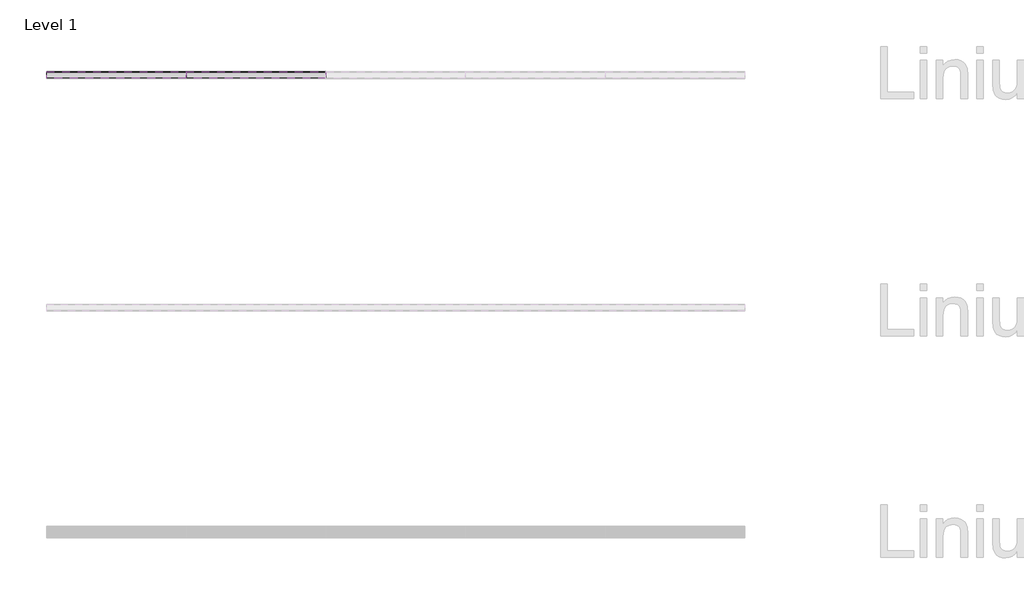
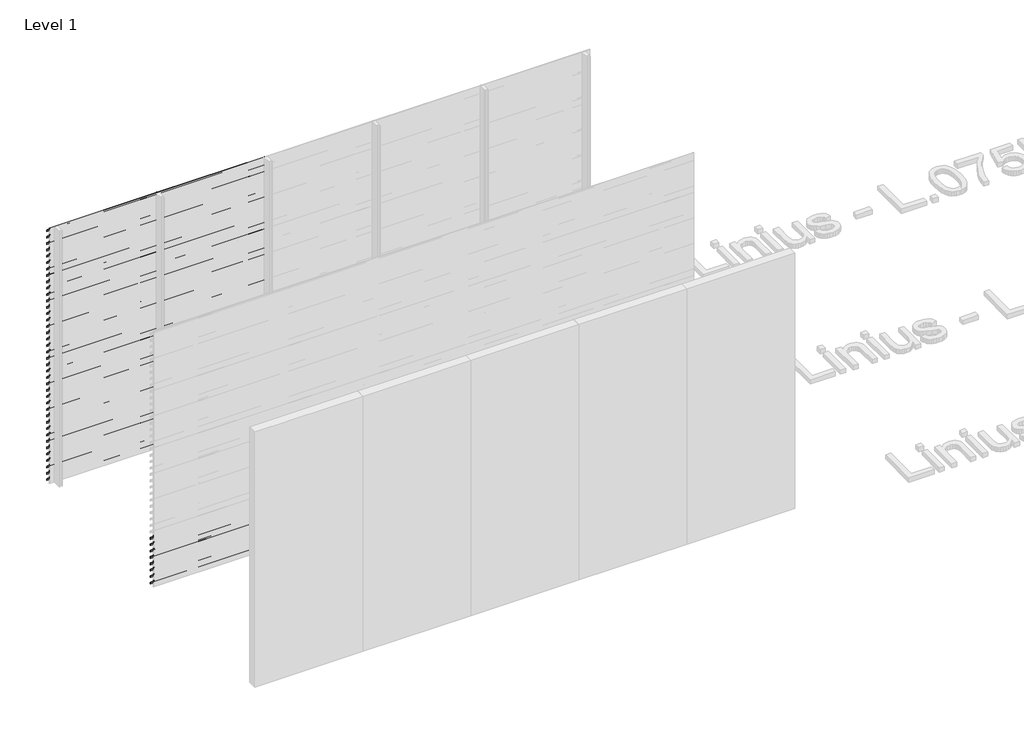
# One storey, part 37 of 55: 85 proxies.
"""IFC4 building model written with IfcOpenShell, lengths in millimetres."""

from ifc_helpers import new_model, si_unit, frame, origin, place, context, project, spatial, polyline, outline, extrude, element, save

model = new_model("IFC4")

# Units and contexts
model_context = context("Model", 3, world=origin())
ifc_project = project(units=[si_unit("LENGTHUNIT", "METRE", prefix="MILLI")], contexts=[model_context])

# Site, building, storey
site = spatial("IfcSite", under=ifc_project)
building = spatial("IfcBuilding", under=site)
storey = spatial("IfcBuildingStorey", under=building, Name="Level 1", Elevation=0.0)

# Proxies
placement = place(None, origin())
element("IfcBuildingElementProxy", 1, Name="Wall Sweeps", at=placement, inside=storey, context=model_context, shape_type="SweptSolid", body=[
    extrude(outline(polyline([(51581.0540136, 2943.5), (51581.0540136, 2923.5), (51579.8040136, 2924.2216933), (51579.8040136, 2942.7872415), (51526.0540136, 2980.3158044), (51526.0540136, 3000.0), (51527.3040136, 3000.0), (51527.3040136, 2981.0285629), (51581.0540136, 2943.5)])), frame((466.6208097, 0.0, 0.0), z_axis=(1.0, 0.0, 0.0), x_axis=(0.0, 1.0, 0.0)), (0.0, 0.0, 1.0), 1200.0000002),
])
element("IfcBuildingElementProxy", 2, Name="Wall Sweeps", at=placement, inside=storey, context=model_context, shape_type="SweptSolid", body=[
    extrude(outline(polyline([(51581.0540136, 2868.5), (51581.0540136, 2848.5), (51579.8040136, 2849.2216933), (51579.8040136, 2867.7872415), (51526.0540136, 2905.3158044), (51526.0540136, 2925.0), (51527.3040136, 2925.0), (51527.3040136, 2906.0285629), (51581.0540136, 2868.5)])), frame((466.6208097, 0.0, 0.0), z_axis=(1.0, 0.0, 0.0), x_axis=(0.0, 1.0, 0.0)), (0.0, 0.0, 1.0), 1200.0000002),
])
element("IfcBuildingElementProxy", 3, Name="Wall Sweeps", at=placement, inside=storey, context=model_context, shape_type="SweptSolid", body=[
    extrude(outline(polyline([(51581.0540136, 2793.5), (51581.0540136, 2773.5), (51579.8040136, 2774.2216933), (51579.8040136, 2792.7872415), (51526.0540136, 2830.3158044), (51526.0540136, 2850.0), (51527.3040136, 2850.0), (51527.3040136, 2831.0285629), (51581.0540136, 2793.5)])), frame((466.6208097, 0.0, 0.0), z_axis=(1.0, 0.0, 0.0), x_axis=(0.0, 1.0, 0.0)), (0.0, 0.0, 1.0), 1200.0000002),
])
element("IfcBuildingElementProxy", 4, Name="Wall Sweeps", at=placement, inside=storey, context=model_context, shape_type="SweptSolid", body=[
    extrude(outline(polyline([(51581.0540136, 2718.5), (51581.0540136, 2698.5), (51579.8040136, 2699.2216933), (51579.8040136, 2717.7872415), (51526.0540136, 2755.3158044), (51526.0540136, 2775.0), (51527.3040136, 2775.0), (51527.3040136, 2756.0285629), (51581.0540136, 2718.5)])), frame((466.6208097, 0.0, 0.0), z_axis=(1.0, 0.0, 0.0), x_axis=(0.0, 1.0, 0.0)), (0.0, 0.0, 1.0), 1200.0000002),
])
element("IfcBuildingElementProxy", 5, Name="Wall Sweeps", at=placement, inside=storey, context=model_context, shape_type="SweptSolid", body=[
    extrude(outline(polyline([(51581.0540136, 2643.5), (51581.0540136, 2623.5), (51579.8040136, 2624.2216933), (51579.8040136, 2642.7872415), (51526.0540136, 2680.3158044), (51526.0540136, 2700.0), (51527.3040136, 2700.0), (51527.3040136, 2681.0285629), (51581.0540136, 2643.5)])), frame((466.6208097, 0.0, 0.0), z_axis=(1.0, 0.0, 0.0), x_axis=(0.0, 1.0, 0.0)), (0.0, 0.0, 1.0), 1200.0000002),
])
element("IfcBuildingElementProxy", 6, Name="Wall Sweeps", at=placement, inside=storey, context=model_context, shape_type="SweptSolid", body=[
    extrude(outline(polyline([(51581.0540136, 2568.5), (51581.0540136, 2548.5), (51579.8040136, 2549.2216933), (51579.8040136, 2567.7872415), (51526.0540136, 2605.3158044), (51526.0540136, 2625.0), (51527.3040136, 2625.0), (51527.3040136, 2606.0285629), (51581.0540136, 2568.5)])), frame((466.6208097, 0.0, 0.0), z_axis=(1.0, 0.0, 0.0), x_axis=(0.0, 1.0, 0.0)), (0.0, 0.0, 1.0), 1200.0000002),
])
element("IfcBuildingElementProxy", 7, Name="Wall Sweeps", at=placement, inside=storey, context=model_context, shape_type="SweptSolid", body=[
    extrude(outline(polyline([(51581.0540136, 2493.5), (51581.0540136, 2473.5), (51579.8040136, 2474.2216933), (51579.8040136, 2492.7872415), (51526.0540136, 2530.3158044), (51526.0540136, 2550.0), (51527.3040136, 2550.0), (51527.3040136, 2531.0285629), (51581.0540136, 2493.5)])), frame((466.6208097, 0.0, 0.0), z_axis=(1.0, 0.0, 0.0), x_axis=(0.0, 1.0, 0.0)), (0.0, 0.0, 1.0), 1200.0000002),
])
element("IfcBuildingElementProxy", 8, Name="Wall Sweeps", at=placement, inside=storey, context=model_context, shape_type="SweptSolid", body=[
    extrude(outline(polyline([(51581.0540136, 2418.5), (51581.0540136, 2398.5), (51579.8040136, 2399.2216933), (51579.8040136, 2417.7872415), (51526.0540136, 2455.3158044), (51526.0540136, 2475.0), (51527.3040136, 2475.0), (51527.3040136, 2456.0285629), (51581.0540136, 2418.5)])), frame((466.6208097, 0.0, 0.0), z_axis=(1.0, 0.0, 0.0), x_axis=(0.0, 1.0, 0.0)), (0.0, 0.0, 1.0), 1200.0000002),
])
element("IfcBuildingElementProxy", 9, Name="Wall Sweeps", at=placement, inside=storey, context=model_context, shape_type="SweptSolid", body=[
    extrude(outline(polyline([(51581.0540136, 2343.5), (51581.0540136, 2323.5), (51579.8040136, 2324.2216933), (51579.8040136, 2342.7872415), (51526.0540136, 2380.3158044), (51526.0540136, 2400.0), (51527.3040136, 2400.0), (51527.3040136, 2381.0285629), (51581.0540136, 2343.5)])), frame((466.6208097, 0.0, 0.0), z_axis=(1.0, 0.0, 0.0), x_axis=(0.0, 1.0, 0.0)), (0.0, 0.0, 1.0), 1200.0000002),
])
element("IfcBuildingElementProxy", 10, Name="Wall Sweeps", at=placement, inside=storey, context=model_context, shape_type="SweptSolid", body=[
    extrude(outline(polyline([(51581.0540136, 2268.5), (51581.0540136, 2248.5), (51579.8040136, 2249.2216933), (51579.8040136, 2267.7872415), (51526.0540136, 2305.3158044), (51526.0540136, 2325.0), (51527.3040136, 2325.0), (51527.3040136, 2306.0285629), (51581.0540136, 2268.5)])), frame((466.6208097, 0.0, 0.0), z_axis=(1.0, 0.0, 0.0), x_axis=(0.0, 1.0, 0.0)), (0.0, 0.0, 1.0), 1200.0000002),
])
element("IfcBuildingElementProxy", 11, Name="Wall Sweeps", at=placement, inside=storey, context=model_context, shape_type="SweptSolid", body=[
    extrude(outline(polyline([(51581.0540136, 2193.5), (51581.0540136, 2173.5), (51579.8040136, 2174.2216933), (51579.8040136, 2192.7872415), (51526.0540136, 2230.3158044), (51526.0540136, 2250.0), (51527.3040136, 2250.0), (51527.3040136, 2231.0285629), (51581.0540136, 2193.5)])), frame((466.6208097, 0.0, 0.0), z_axis=(1.0, 0.0, 0.0), x_axis=(0.0, 1.0, 0.0)), (0.0, 0.0, 1.0), 1200.0000002),
])
element("IfcBuildingElementProxy", 12, Name="Wall Sweeps", at=placement, inside=storey, context=model_context, shape_type="SweptSolid", body=[
    extrude(outline(polyline([(51581.0540136, 2118.5), (51581.0540136, 2098.5), (51579.8040136, 2099.2216933), (51579.8040136, 2117.7872415), (51526.0540136, 2155.3158044), (51526.0540136, 2175.0), (51527.3040136, 2175.0), (51527.3040136, 2156.0285629), (51581.0540136, 2118.5)])), frame((466.6208097, 0.0, 0.0), z_axis=(1.0, 0.0, 0.0), x_axis=(0.0, 1.0, 0.0)), (0.0, 0.0, 1.0), 1200.0000002),
])
element("IfcBuildingElementProxy", 13, Name="Wall Sweeps", at=placement, inside=storey, context=model_context, shape_type="SweptSolid", body=[
    extrude(outline(polyline([(51581.0540136, 2043.5), (51581.0540136, 2023.5), (51579.8040136, 2024.2216933), (51579.8040136, 2042.7872415), (51526.0540136, 2080.3158044), (51526.0540136, 2100.0), (51527.3040136, 2100.0), (51527.3040136, 2081.0285629), (51581.0540136, 2043.5)])), frame((466.6208097, 0.0, 0.0), z_axis=(1.0, 0.0, 0.0), x_axis=(0.0, 1.0, 0.0)), (0.0, 0.0, 1.0), 1200.0000002),
])
element("IfcBuildingElementProxy", 14, Name="Wall Sweeps", at=placement, inside=storey, context=model_context, shape_type="SweptSolid", body=[
    extrude(outline(polyline([(51581.0540136, 1968.5), (51581.0540136, 1948.5), (51579.8040136, 1949.2216933), (51579.8040136, 1967.7872415), (51526.0540136, 2005.3158044), (51526.0540136, 2025.0), (51527.3040136, 2025.0), (51527.3040136, 2006.0285629), (51581.0540136, 1968.5)])), frame((466.6208097, 0.0, 0.0), z_axis=(1.0, 0.0, 0.0), x_axis=(0.0, 1.0, 0.0)), (0.0, 0.0, 1.0), 1200.0000002),
])
element("IfcBuildingElementProxy", 15, Name="Wall Sweeps", at=placement, inside=storey, context=model_context, shape_type="SweptSolid", body=[
    extrude(outline(polyline([(51581.0540136, 1893.5), (51581.0540136, 1873.5), (51579.8040136, 1874.2216933), (51579.8040136, 1892.7872415), (51526.0540136, 1930.3158044), (51526.0540136, 1950.0), (51527.3040136, 1950.0), (51527.3040136, 1931.0285629), (51581.0540136, 1893.5)])), frame((466.6208097, 0.0, 0.0), z_axis=(1.0, 0.0, 0.0), x_axis=(0.0, 1.0, 0.0)), (0.0, 0.0, 1.0), 1200.0000002),
])
element("IfcBuildingElementProxy", 16, Name="Wall Sweeps", at=placement, inside=storey, context=model_context, shape_type="SweptSolid", body=[
    extrude(outline(polyline([(51581.0540136, 1818.5), (51581.0540136, 1798.5), (51579.8040136, 1799.2216933), (51579.8040136, 1817.7872415), (51526.0540136, 1855.3158044), (51526.0540136, 1875.0), (51527.3040136, 1875.0), (51527.3040136, 1856.0285629), (51581.0540136, 1818.5)])), frame((466.6208097, 0.0, 0.0), z_axis=(1.0, 0.0, 0.0), x_axis=(0.0, 1.0, 0.0)), (0.0, 0.0, 1.0), 1200.0000002),
])
element("IfcBuildingElementProxy", 17, Name="Wall Sweeps", at=placement, inside=storey, context=model_context, shape_type="SweptSolid", body=[
    extrude(outline(polyline([(51581.0540136, 1743.5), (51581.0540136, 1723.5), (51579.8040136, 1724.2216933), (51579.8040136, 1742.7872415), (51526.0540136, 1780.3158044), (51526.0540136, 1800.0), (51527.3040136, 1800.0), (51527.3040136, 1781.0285629), (51581.0540136, 1743.5)])), frame((466.6208097, 0.0, 0.0), z_axis=(1.0, 0.0, 0.0), x_axis=(0.0, 1.0, 0.0)), (0.0, 0.0, 1.0), 1200.0000002),
])
element("IfcBuildingElementProxy", 18, Name="Wall Sweeps", at=placement, inside=storey, context=model_context, shape_type="SweptSolid", body=[
    extrude(outline(polyline([(51581.0540136, 1668.5), (51581.0540136, 1648.5), (51579.8040136, 1649.2216933), (51579.8040136, 1667.7872415), (51526.0540136, 1705.3158044), (51526.0540136, 1725.0), (51527.3040136, 1725.0), (51527.3040136, 1706.0285629), (51581.0540136, 1668.5)])), frame((466.6208097, 0.0, 0.0), z_axis=(1.0, 0.0, 0.0), x_axis=(0.0, 1.0, 0.0)), (0.0, 0.0, 1.0), 1200.0000002),
])
element("IfcBuildingElementProxy", 19, Name="Wall Sweeps", at=placement, inside=storey, context=model_context, shape_type="SweptSolid", body=[
    extrude(outline(polyline([(51581.0540136, 1593.5), (51581.0540136, 1573.5), (51579.8040136, 1574.2216933), (51579.8040136, 1592.7872415), (51526.0540136, 1630.3158044), (51526.0540136, 1650.0), (51527.3040136, 1650.0), (51527.3040136, 1631.0285629), (51581.0540136, 1593.5)])), frame((466.6208097, 0.0, 0.0), z_axis=(1.0, 0.0, 0.0), x_axis=(0.0, 1.0, 0.0)), (0.0, 0.0, 1.0), 1200.0000002),
])
element("IfcBuildingElementProxy", 20, Name="Wall Sweeps", at=placement, inside=storey, context=model_context, shape_type="SweptSolid", body=[
    extrude(outline(polyline([(51581.0540136, 1518.5), (51581.0540136, 1498.5), (51579.8040136, 1499.2216933), (51579.8040136, 1517.7872415), (51526.0540136, 1555.3158044), (51526.0540136, 1575.0), (51527.3040136, 1575.0), (51527.3040136, 1556.0285629), (51581.0540136, 1518.5)])), frame((466.6208097, 0.0, 0.0), z_axis=(1.0, 0.0, 0.0), x_axis=(0.0, 1.0, 0.0)), (0.0, 0.0, 1.0), 1200.0000002),
])
element("IfcBuildingElementProxy", 21, Name="Wall Sweeps", at=placement, inside=storey, context=model_context, shape_type="SweptSolid", body=[
    extrude(outline(polyline([(51581.0540136, 1443.5), (51581.0540136, 1423.5), (51579.8040136, 1424.2216933), (51579.8040136, 1442.7872415), (51526.0540136, 1480.3158044), (51526.0540136, 1500.0), (51527.3040136, 1500.0), (51527.3040136, 1481.0285629), (51581.0540136, 1443.5)])), frame((466.6208097, 0.0, 0.0), z_axis=(1.0, 0.0, 0.0), x_axis=(0.0, 1.0, 0.0)), (0.0, 0.0, 1.0), 1200.0000002),
])
element("IfcBuildingElementProxy", 22, Name="Wall Sweeps", at=placement, inside=storey, context=model_context, shape_type="SweptSolid", body=[
    extrude(outline(polyline([(51581.0540136, 1368.5), (51581.0540136, 1348.5), (51579.8040136, 1349.2216933), (51579.8040136, 1367.7872415), (51526.0540136, 1405.3158044), (51526.0540136, 1425.0), (51527.3040136, 1425.0), (51527.3040136, 1406.0285629), (51581.0540136, 1368.5)])), frame((466.6208097, 0.0, 0.0), z_axis=(1.0, 0.0, 0.0), x_axis=(0.0, 1.0, 0.0)), (0.0, 0.0, 1.0), 1200.0000002),
])
element("IfcBuildingElementProxy", 23, Name="Wall Sweeps", at=placement, inside=storey, context=model_context, shape_type="SweptSolid", body=[
    extrude(outline(polyline([(51581.0540136, 1293.5), (51581.0540136, 1273.5), (51579.8040136, 1274.2216933), (51579.8040136, 1292.7872415), (51526.0540136, 1330.3158044), (51526.0540136, 1350.0), (51527.3040136, 1350.0), (51527.3040136, 1331.0285629), (51581.0540136, 1293.5)])), frame((466.6208097, 0.0, 0.0), z_axis=(1.0, 0.0, 0.0), x_axis=(0.0, 1.0, 0.0)), (0.0, 0.0, 1.0), 1200.0000002),
])
element("IfcBuildingElementProxy", 24, Name="Wall Sweeps", at=placement, inside=storey, context=model_context, shape_type="SweptSolid", body=[
    extrude(outline(polyline([(51581.0540136, 1218.5), (51581.0540136, 1198.5), (51579.8040136, 1199.2216933), (51579.8040136, 1217.7872415), (51526.0540136, 1255.3158044), (51526.0540136, 1275.0), (51527.3040136, 1275.0), (51527.3040136, 1256.0285629), (51581.0540136, 1218.5)])), frame((466.6208097, 0.0, 0.0), z_axis=(1.0, 0.0, 0.0), x_axis=(0.0, 1.0, 0.0)), (0.0, 0.0, 1.0), 1200.0000002),
])
element("IfcBuildingElementProxy", 25, Name="Wall Sweeps", at=placement, inside=storey, context=model_context, shape_type="SweptSolid", body=[
    extrude(outline(polyline([(51581.0540136, 1143.5), (51581.0540136, 1123.5), (51579.8040136, 1124.2216933), (51579.8040136, 1142.7872415), (51526.0540136, 1180.3158044), (51526.0540136, 1200.0), (51527.3040136, 1200.0), (51527.3040136, 1181.0285629), (51581.0540136, 1143.5)])), frame((466.6208097, 0.0, 0.0), z_axis=(1.0, 0.0, 0.0), x_axis=(0.0, 1.0, 0.0)), (0.0, 0.0, 1.0), 1200.0000002),
])
element("IfcBuildingElementProxy", 26, Name="Wall Sweeps", at=placement, inside=storey, context=model_context, shape_type="SweptSolid", body=[
    extrude(outline(polyline([(51581.0540136, 1068.5), (51581.0540136, 1048.5), (51579.8040136, 1049.2216933), (51579.8040136, 1067.7872415), (51526.0540136, 1105.3158044), (51526.0540136, 1125.0), (51527.3040136, 1125.0), (51527.3040136, 1106.0285629), (51581.0540136, 1068.5)])), frame((466.6208097, 0.0, 0.0), z_axis=(1.0, 0.0, 0.0), x_axis=(0.0, 1.0, 0.0)), (0.0, 0.0, 1.0), 1200.0000002),
])
element("IfcBuildingElementProxy", 27, Name="Wall Sweeps", at=placement, inside=storey, context=model_context, shape_type="SweptSolid", body=[
    extrude(outline(polyline([(51581.0540136, 993.5), (51581.0540136, 973.5), (51579.8040136, 974.2216933), (51579.8040136, 992.7872415), (51526.0540136, 1030.3158044), (51526.0540136, 1050.0), (51527.3040136, 1050.0), (51527.3040136, 1031.0285629), (51581.0540136, 993.5)])), frame((466.6208097, 0.0, 0.0), z_axis=(1.0, 0.0, 0.0), x_axis=(0.0, 1.0, 0.0)), (0.0, 0.0, 1.0), 1200.0000002),
])
element("IfcBuildingElementProxy", 28, Name="Wall Sweeps", at=placement, inside=storey, context=model_context, shape_type="SweptSolid", body=[
    extrude(outline(polyline([(51581.0540136, 918.5), (51581.0540136, 898.5), (51579.8040136, 899.2216933), (51579.8040136, 917.7872415), (51526.0540136, 955.3158044), (51526.0540136, 975.0), (51527.3040136, 975.0), (51527.3040136, 956.0285629), (51581.0540136, 918.5)])), frame((466.6208097, 0.0, 0.0), z_axis=(1.0, 0.0, 0.0), x_axis=(0.0, 1.0, 0.0)), (0.0, 0.0, 1.0), 1200.0000002),
])
element("IfcBuildingElementProxy", 29, Name="Wall Sweeps", at=placement, inside=storey, context=model_context, shape_type="SweptSolid", body=[
    extrude(outline(polyline([(51581.0540136, 843.5), (51581.0540136, 823.5), (51579.8040136, 824.2216933), (51579.8040136, 842.7872415), (51526.0540136, 880.3158044), (51526.0540136, 900.0), (51527.3040136, 900.0), (51527.3040136, 881.0285629), (51581.0540136, 843.5)])), frame((466.6208097, 0.0, 0.0), z_axis=(1.0, 0.0, 0.0), x_axis=(0.0, 1.0, 0.0)), (0.0, 0.0, 1.0), 1200.0000002),
])
element("IfcBuildingElementProxy", 30, Name="Wall Sweeps", at=placement, inside=storey, context=model_context, shape_type="SweptSolid", body=[
    extrude(outline(polyline([(51581.0540136, 768.5), (51581.0540136, 748.5), (51579.8040136, 749.2216933), (51579.8040136, 767.7872415), (51526.0540136, 805.3158044), (51526.0540136, 825.0), (51527.3040136, 825.0), (51527.3040136, 806.0285629), (51581.0540136, 768.5)])), frame((466.6208097, 0.0, 0.0), z_axis=(1.0, 0.0, 0.0), x_axis=(0.0, 1.0, 0.0)), (0.0, 0.0, 1.0), 1200.0000002),
])
element("IfcBuildingElementProxy", 31, Name="Wall Sweeps", at=placement, inside=storey, context=model_context, shape_type="SweptSolid", body=[
    extrude(outline(polyline([(51581.0540136, 693.5), (51581.0540136, 673.5), (51579.8040136, 674.2216933), (51579.8040136, 692.7872415), (51526.0540136, 730.3158044), (51526.0540136, 750.0), (51527.3040136, 750.0), (51527.3040136, 731.0285629), (51581.0540136, 693.5)])), frame((466.6208097, 0.0, 0.0), z_axis=(1.0, 0.0, 0.0), x_axis=(0.0, 1.0, 0.0)), (0.0, 0.0, 1.0), 1200.0000002),
])
element("IfcBuildingElementProxy", 32, Name="Wall Sweeps", at=placement, inside=storey, context=model_context, shape_type="SweptSolid", body=[
    extrude(outline(polyline([(51581.0540136, 618.5), (51581.0540136, 598.5), (51579.8040136, 599.2216933), (51579.8040136, 617.7872415), (51526.0540136, 655.3158044), (51526.0540136, 675.0), (51527.3040136, 675.0), (51527.3040136, 656.0285629), (51581.0540136, 618.5)])), frame((466.6208097, 0.0, 0.0), z_axis=(1.0, 0.0, 0.0), x_axis=(0.0, 1.0, 0.0)), (0.0, 0.0, 1.0), 1200.0000002),
])
element("IfcBuildingElementProxy", 33, Name="Wall Sweeps", at=placement, inside=storey, context=model_context, shape_type="SweptSolid", body=[
    extrude(outline(polyline([(51581.0540136, 543.5), (51581.0540136, 523.5), (51579.8040136, 524.2216933), (51579.8040136, 542.7872415), (51526.0540136, 580.3158044), (51526.0540136, 600.0), (51527.3040136, 600.0), (51527.3040136, 581.0285629), (51581.0540136, 543.5)])), frame((466.6208097, 0.0, 0.0), z_axis=(1.0, 0.0, 0.0), x_axis=(0.0, 1.0, 0.0)), (0.0, 0.0, 1.0), 1200.0000002),
])
element("IfcBuildingElementProxy", 34, Name="Wall Sweeps", at=placement, inside=storey, context=model_context, shape_type="SweptSolid", body=[
    extrude(outline(polyline([(51581.0540136, 468.5), (51581.0540136, 448.5), (51579.8040136, 449.2216933), (51579.8040136, 467.7872415), (51526.0540136, 505.3158044), (51526.0540136, 525.0), (51527.3040136, 525.0), (51527.3040136, 506.0285629), (51581.0540136, 468.5)])), frame((466.6208097, 0.0, 0.0), z_axis=(1.0, 0.0, 0.0), x_axis=(0.0, 1.0, 0.0)), (0.0, 0.0, 1.0), 1200.0000002),
])
element("IfcBuildingElementProxy", 35, Name="Wall Sweeps", at=placement, inside=storey, context=model_context, shape_type="SweptSolid", body=[
    extrude(outline(polyline([(51581.0540136, 393.5), (51581.0540136, 373.5), (51579.8040136, 374.2216933), (51579.8040136, 392.7872415), (51526.0540136, 430.3158044), (51526.0540136, 450.0), (51527.3040136, 450.0), (51527.3040136, 431.0285629), (51581.0540136, 393.5)])), frame((466.6208097, 0.0, 0.0), z_axis=(1.0, 0.0, 0.0), x_axis=(0.0, 1.0, 0.0)), (0.0, 0.0, 1.0), 1200.0000002),
])
element("IfcBuildingElementProxy", 36, Name="Wall Sweeps", at=placement, inside=storey, context=model_context, shape_type="SweptSolid", body=[
    extrude(outline(polyline([(51581.0540136, 318.5), (51581.0540136, 298.5), (51579.8040136, 299.2216933), (51579.8040136, 317.7872415), (51526.0540136, 355.3158044), (51526.0540136, 375.0), (51527.3040136, 375.0), (51527.3040136, 356.0285629), (51581.0540136, 318.5)])), frame((466.6208097, 0.0, 0.0), z_axis=(1.0, 0.0, 0.0), x_axis=(0.0, 1.0, 0.0)), (0.0, 0.0, 1.0), 1200.0000002),
])
element("IfcBuildingElementProxy", 37, Name="Wall Sweeps", at=placement, inside=storey, context=model_context, shape_type="SweptSolid", body=[
    extrude(outline(polyline([(51581.0540136, 243.5), (51581.0540136, 223.5), (51579.8040136, 224.2216933), (51579.8040136, 242.7872415), (51526.0540136, 280.3158044), (51526.0540136, 300.0), (51527.3040136, 300.0), (51527.3040136, 281.0285629), (51581.0540136, 243.5)])), frame((466.6208097, 0.0, 0.0), z_axis=(1.0, 0.0, 0.0), x_axis=(0.0, 1.0, 0.0)), (0.0, 0.0, 1.0), 1200.0000002),
])
element("IfcBuildingElementProxy", 38, Name="Wall Sweeps", at=placement, inside=storey, context=model_context, shape_type="SweptSolid", body=[
    extrude(outline(polyline([(51581.0540136, 168.5), (51581.0540136, 148.5), (51579.8040136, 149.2216933), (51579.8040136, 167.7872415), (51526.0540136, 205.3158044), (51526.0540136, 225.0), (51527.3040136, 225.0), (51527.3040136, 206.0285629), (51581.0540136, 168.5)])), frame((466.6208097, 0.0, 0.0), z_axis=(1.0, 0.0, 0.0), x_axis=(0.0, 1.0, 0.0)), (0.0, 0.0, 1.0), 1200.0000002),
])
element("IfcBuildingElementProxy", 39, Name="Wall Sweeps", at=placement, inside=storey, context=model_context, shape_type="SweptSolid", body=[
    extrude(outline(polyline([(51581.0540136, 93.5), (51581.0540136, 73.5), (51579.8040136, 74.2216933), (51579.8040136, 92.7872415), (51526.0540136, 130.3158044), (51526.0540136, 150.0), (51527.3040136, 150.0), (51527.3040136, 131.0285629), (51581.0540136, 93.5)])), frame((466.6208097, 0.0, 0.0), z_axis=(1.0, 0.0, 0.0), x_axis=(0.0, 1.0, 0.0)), (0.0, 0.0, 1.0), 1200.0000002),
])
element("IfcBuildingElementProxy", 40, Name="Wall Sweeps", at=placement, inside=storey, context=model_context, shape_type="SweptSolid", body=[
    extrude(outline(polyline([(51581.0540136, 18.5), (51581.0540136, -1.5), (51579.8040136, -0.7783067), (51579.8040136, 17.7872415), (51526.0540136, 55.3158044), (51526.0540136, 75.0), (51527.3040136, 75.0), (51527.3040136, 56.0285629), (51581.0540136, 18.5)])), frame((466.6208097, 0.0, 0.0), z_axis=(1.0, 0.0, 0.0), x_axis=(0.0, 1.0, 0.0)), (0.0, 0.0, 1.0), 1200.0000002),
])
element("IfcBuildingElementProxy", 41, Name="Wall Sweeps", at=placement, inside=storey, context=model_context, shape_type="SweptSolid", body=[
    extrude(outline(polyline([(51581.0540136, 2943.5), (51581.0540136, 2923.5), (51579.8040136, 2924.2216933), (51579.8040136, 2942.7872415), (51526.0540136, 2980.3158044), (51526.0540136, 3000.0), (51527.3040136, 3000.0), (51527.3040136, 2981.0285629), (51581.0540136, 2943.5)])), frame((1666.6208099, 0.0, 0.0), z_axis=(1.0, 0.0, 0.0), x_axis=(0.0, 1.0, 0.0)), (0.0, 0.0, 1.0), 1199.9999999),
])
element("IfcBuildingElementProxy", 42, Name="Wall Sweeps", at=placement, inside=storey, context=model_context, shape_type="SweptSolid", body=[
    extrude(outline(polyline([(51581.0540136, 2868.5), (51581.0540136, 2848.5), (51579.8040136, 2849.2216933), (51579.8040136, 2867.7872415), (51526.0540136, 2905.3158044), (51526.0540136, 2925.0), (51527.3040136, 2925.0), (51527.3040136, 2906.0285629), (51581.0540136, 2868.5)])), frame((1666.6208099, 0.0, 0.0), z_axis=(1.0, 0.0, 0.0), x_axis=(0.0, 1.0, 0.0)), (0.0, 0.0, 1.0), 1199.9999999),
])
element("IfcBuildingElementProxy", 43, Name="Wall Sweeps", at=placement, inside=storey, context=model_context, shape_type="SweptSolid", body=[
    extrude(outline(polyline([(51581.0540136, 2793.5), (51581.0540136, 2773.5), (51579.8040136, 2774.2216933), (51579.8040136, 2792.7872415), (51526.0540136, 2830.3158044), (51526.0540136, 2850.0), (51527.3040136, 2850.0), (51527.3040136, 2831.0285629), (51581.0540136, 2793.5)])), frame((1666.6208099, 0.0, 0.0), z_axis=(1.0, 0.0, 0.0), x_axis=(0.0, 1.0, 0.0)), (0.0, 0.0, 1.0), 1199.9999999),
])
element("IfcBuildingElementProxy", 44, Name="Wall Sweeps", at=placement, inside=storey, context=model_context, shape_type="SweptSolid", body=[
    extrude(outline(polyline([(51581.0540136, 2718.5), (51581.0540136, 2698.5), (51579.8040136, 2699.2216933), (51579.8040136, 2717.7872415), (51526.0540136, 2755.3158044), (51526.0540136, 2775.0), (51527.3040136, 2775.0), (51527.3040136, 2756.0285629), (51581.0540136, 2718.5)])), frame((1666.6208099, 0.0, 0.0), z_axis=(1.0, 0.0, 0.0), x_axis=(0.0, 1.0, 0.0)), (0.0, 0.0, 1.0), 1199.9999999),
])
element("IfcBuildingElementProxy", 45, Name="Wall Sweeps", at=placement, inside=storey, context=model_context, shape_type="SweptSolid", body=[
    extrude(outline(polyline([(51581.0540136, 2643.5), (51581.0540136, 2623.5), (51579.8040136, 2624.2216933), (51579.8040136, 2642.7872415), (51526.0540136, 2680.3158044), (51526.0540136, 2700.0), (51527.3040136, 2700.0), (51527.3040136, 2681.0285629), (51581.0540136, 2643.5)])), frame((1666.6208099, 0.0, 0.0), z_axis=(1.0, 0.0, 0.0), x_axis=(0.0, 1.0, 0.0)), (0.0, 0.0, 1.0), 1199.9999999),
])
element("IfcBuildingElementProxy", 46, Name="Wall Sweeps", at=placement, inside=storey, context=model_context, shape_type="SweptSolid", body=[
    extrude(outline(polyline([(51581.0540136, 2568.5), (51581.0540136, 2548.5), (51579.8040136, 2549.2216933), (51579.8040136, 2567.7872415), (51526.0540136, 2605.3158044), (51526.0540136, 2625.0), (51527.3040136, 2625.0), (51527.3040136, 2606.0285629), (51581.0540136, 2568.5)])), frame((1666.6208099, 0.0, 0.0), z_axis=(1.0, 0.0, 0.0), x_axis=(0.0, 1.0, 0.0)), (0.0, 0.0, 1.0), 1199.9999999),
])
element("IfcBuildingElementProxy", 47, Name="Wall Sweeps", at=placement, inside=storey, context=model_context, shape_type="SweptSolid", body=[
    extrude(outline(polyline([(51581.0540136, 2493.5), (51581.0540136, 2473.5), (51579.8040136, 2474.2216933), (51579.8040136, 2492.7872415), (51526.0540136, 2530.3158044), (51526.0540136, 2550.0), (51527.3040136, 2550.0), (51527.3040136, 2531.0285629), (51581.0540136, 2493.5)])), frame((1666.6208099, 0.0, 0.0), z_axis=(1.0, 0.0, 0.0), x_axis=(0.0, 1.0, 0.0)), (0.0, 0.0, 1.0), 1199.9999999),
])
element("IfcBuildingElementProxy", 48, Name="Wall Sweeps", at=placement, inside=storey, context=model_context, shape_type="SweptSolid", body=[
    extrude(outline(polyline([(51581.0540136, 2418.5), (51581.0540136, 2398.5), (51579.8040136, 2399.2216933), (51579.8040136, 2417.7872415), (51526.0540136, 2455.3158044), (51526.0540136, 2475.0), (51527.3040136, 2475.0), (51527.3040136, 2456.0285629), (51581.0540136, 2418.5)])), frame((1666.6208099, 0.0, 0.0), z_axis=(1.0, 0.0, 0.0), x_axis=(0.0, 1.0, 0.0)), (0.0, 0.0, 1.0), 1199.9999999),
])
element("IfcBuildingElementProxy", 49, Name="Wall Sweeps", at=placement, inside=storey, context=model_context, shape_type="SweptSolid", body=[
    extrude(outline(polyline([(51581.0540136, 2343.5), (51581.0540136, 2323.5), (51579.8040136, 2324.2216933), (51579.8040136, 2342.7872415), (51526.0540136, 2380.3158044), (51526.0540136, 2400.0), (51527.3040136, 2400.0), (51527.3040136, 2381.0285629), (51581.0540136, 2343.5)])), frame((1666.6208099, 0.0, 0.0), z_axis=(1.0, 0.0, 0.0), x_axis=(0.0, 1.0, 0.0)), (0.0, 0.0, 1.0), 1199.9999999),
])
element("IfcBuildingElementProxy", 50, Name="Wall Sweeps", at=placement, inside=storey, context=model_context, shape_type="SweptSolid", body=[
    extrude(outline(polyline([(51581.0540136, 2268.5), (51581.0540136, 2248.5), (51579.8040136, 2249.2216933), (51579.8040136, 2267.7872415), (51526.0540136, 2305.3158044), (51526.0540136, 2325.0), (51527.3040136, 2325.0), (51527.3040136, 2306.0285629), (51581.0540136, 2268.5)])), frame((1666.6208099, 0.0, 0.0), z_axis=(1.0, 0.0, 0.0), x_axis=(0.0, 1.0, 0.0)), (0.0, 0.0, 1.0), 1199.9999999),
])
element("IfcBuildingElementProxy", 51, Name="Wall Sweeps", at=placement, inside=storey, context=model_context, shape_type="SweptSolid", body=[
    extrude(outline(polyline([(51581.0540136, 2193.5), (51581.0540136, 2173.5), (51579.8040136, 2174.2216933), (51579.8040136, 2192.7872415), (51526.0540136, 2230.3158044), (51526.0540136, 2250.0), (51527.3040136, 2250.0), (51527.3040136, 2231.0285629), (51581.0540136, 2193.5)])), frame((1666.6208099, 0.0, 0.0), z_axis=(1.0, 0.0, 0.0), x_axis=(0.0, 1.0, 0.0)), (0.0, 0.0, 1.0), 1199.9999999),
])
element("IfcBuildingElementProxy", 52, Name="Wall Sweeps", at=placement, inside=storey, context=model_context, shape_type="SweptSolid", body=[
    extrude(outline(polyline([(51581.0540136, 2118.5), (51581.0540136, 2098.5), (51579.8040136, 2099.2216933), (51579.8040136, 2117.7872415), (51526.0540136, 2155.3158044), (51526.0540136, 2175.0), (51527.3040136, 2175.0), (51527.3040136, 2156.0285629), (51581.0540136, 2118.5)])), frame((1666.6208099, 0.0, 0.0), z_axis=(1.0, 0.0, 0.0), x_axis=(0.0, 1.0, 0.0)), (0.0, 0.0, 1.0), 1199.9999999),
])
element("IfcBuildingElementProxy", 53, Name="Wall Sweeps", at=placement, inside=storey, context=model_context, shape_type="SweptSolid", body=[
    extrude(outline(polyline([(51581.0540136, 2043.5), (51581.0540136, 2023.5), (51579.8040136, 2024.2216933), (51579.8040136, 2042.7872415), (51526.0540136, 2080.3158044), (51526.0540136, 2100.0), (51527.3040136, 2100.0), (51527.3040136, 2081.0285629), (51581.0540136, 2043.5)])), frame((1666.6208099, 0.0, 0.0), z_axis=(1.0, 0.0, 0.0), x_axis=(0.0, 1.0, 0.0)), (0.0, 0.0, 1.0), 1199.9999999),
])
element("IfcBuildingElementProxy", 54, Name="Wall Sweeps", at=placement, inside=storey, context=model_context, shape_type="SweptSolid", body=[
    extrude(outline(polyline([(51581.0540136, 1968.5), (51581.0540136, 1948.5), (51579.8040136, 1949.2216933), (51579.8040136, 1967.7872415), (51526.0540136, 2005.3158044), (51526.0540136, 2025.0), (51527.3040136, 2025.0), (51527.3040136, 2006.0285629), (51581.0540136, 1968.5)])), frame((1666.6208099, 0.0, 0.0), z_axis=(1.0, 0.0, 0.0), x_axis=(0.0, 1.0, 0.0)), (0.0, 0.0, 1.0), 1199.9999999),
])
element("IfcBuildingElementProxy", 55, Name="Wall Sweeps", at=placement, inside=storey, context=model_context, shape_type="SweptSolid", body=[
    extrude(outline(polyline([(51581.0540136, 1893.5), (51581.0540136, 1873.5), (51579.8040136, 1874.2216933), (51579.8040136, 1892.7872415), (51526.0540136, 1930.3158044), (51526.0540136, 1950.0), (51527.3040136, 1950.0), (51527.3040136, 1931.0285629), (51581.0540136, 1893.5)])), frame((1666.6208099, 0.0, 0.0), z_axis=(1.0, 0.0, 0.0), x_axis=(0.0, 1.0, 0.0)), (0.0, 0.0, 1.0), 1199.9999999),
])
element("IfcBuildingElementProxy", 56, Name="Wall Sweeps", at=placement, inside=storey, context=model_context, shape_type="SweptSolid", body=[
    extrude(outline(polyline([(51581.0540136, 1818.5), (51581.0540136, 1798.5), (51579.8040136, 1799.2216933), (51579.8040136, 1817.7872415), (51526.0540136, 1855.3158044), (51526.0540136, 1875.0), (51527.3040136, 1875.0), (51527.3040136, 1856.0285629), (51581.0540136, 1818.5)])), frame((1666.6208099, 0.0, 0.0), z_axis=(1.0, 0.0, 0.0), x_axis=(0.0, 1.0, 0.0)), (0.0, 0.0, 1.0), 1199.9999999),
])
element("IfcBuildingElementProxy", 57, Name="Wall Sweeps", at=placement, inside=storey, context=model_context, shape_type="SweptSolid", body=[
    extrude(outline(polyline([(51581.0540136, 1743.5), (51581.0540136, 1723.5), (51579.8040136, 1724.2216933), (51579.8040136, 1742.7872415), (51526.0540136, 1780.3158044), (51526.0540136, 1800.0), (51527.3040136, 1800.0), (51527.3040136, 1781.0285629), (51581.0540136, 1743.5)])), frame((1666.6208099, 0.0, 0.0), z_axis=(1.0, 0.0, 0.0), x_axis=(0.0, 1.0, 0.0)), (0.0, 0.0, 1.0), 1199.9999999),
])
element("IfcBuildingElementProxy", 58, Name="Wall Sweeps", at=placement, inside=storey, context=model_context, shape_type="SweptSolid", body=[
    extrude(outline(polyline([(51581.0540136, 1668.5), (51581.0540136, 1648.5), (51579.8040136, 1649.2216933), (51579.8040136, 1667.7872415), (51526.0540136, 1705.3158044), (51526.0540136, 1725.0), (51527.3040136, 1725.0), (51527.3040136, 1706.0285629), (51581.0540136, 1668.5)])), frame((1666.6208099, 0.0, 0.0), z_axis=(1.0, 0.0, 0.0), x_axis=(0.0, 1.0, 0.0)), (0.0, 0.0, 1.0), 1199.9999999),
])
element("IfcBuildingElementProxy", 59, Name="Wall Sweeps", at=placement, inside=storey, context=model_context, shape_type="SweptSolid", body=[
    extrude(outline(polyline([(51581.0540136, 1593.5), (51581.0540136, 1573.5), (51579.8040136, 1574.2216933), (51579.8040136, 1592.7872415), (51526.0540136, 1630.3158044), (51526.0540136, 1650.0), (51527.3040136, 1650.0), (51527.3040136, 1631.0285629), (51581.0540136, 1593.5)])), frame((1666.6208099, 0.0, 0.0), z_axis=(1.0, 0.0, 0.0), x_axis=(0.0, 1.0, 0.0)), (0.0, 0.0, 1.0), 1199.9999999),
])
element("IfcBuildingElementProxy", 60, Name="Wall Sweeps", at=placement, inside=storey, context=model_context, shape_type="SweptSolid", body=[
    extrude(outline(polyline([(51581.0540136, 1518.5), (51581.0540136, 1498.5), (51579.8040136, 1499.2216933), (51579.8040136, 1517.7872415), (51526.0540136, 1555.3158044), (51526.0540136, 1575.0), (51527.3040136, 1575.0), (51527.3040136, 1556.0285629), (51581.0540136, 1518.5)])), frame((1666.6208099, 0.0, 0.0), z_axis=(1.0, 0.0, 0.0), x_axis=(0.0, 1.0, 0.0)), (0.0, 0.0, 1.0), 1199.9999999),
])
element("IfcBuildingElementProxy", 61, Name="Wall Sweeps", at=placement, inside=storey, context=model_context, shape_type="SweptSolid", body=[
    extrude(outline(polyline([(51581.0540136, 1443.5), (51581.0540136, 1423.5), (51579.8040136, 1424.2216933), (51579.8040136, 1442.7872415), (51526.0540136, 1480.3158044), (51526.0540136, 1500.0), (51527.3040136, 1500.0), (51527.3040136, 1481.0285629), (51581.0540136, 1443.5)])), frame((1666.6208099, 0.0, 0.0), z_axis=(1.0, 0.0, 0.0), x_axis=(0.0, 1.0, 0.0)), (0.0, 0.0, 1.0), 1199.9999999),
])
element("IfcBuildingElementProxy", 62, Name="Wall Sweeps", at=placement, inside=storey, context=model_context, shape_type="SweptSolid", body=[
    extrude(outline(polyline([(51581.0540136, 1368.5), (51581.0540136, 1348.5), (51579.8040136, 1349.2216933), (51579.8040136, 1367.7872415), (51526.0540136, 1405.3158044), (51526.0540136, 1425.0), (51527.3040136, 1425.0), (51527.3040136, 1406.0285629), (51581.0540136, 1368.5)])), frame((1666.6208099, 0.0, 0.0), z_axis=(1.0, 0.0, 0.0), x_axis=(0.0, 1.0, 0.0)), (0.0, 0.0, 1.0), 1199.9999999),
])
element("IfcBuildingElementProxy", 63, Name="Wall Sweeps", at=placement, inside=storey, context=model_context, shape_type="SweptSolid", body=[
    extrude(outline(polyline([(51581.0540136, 1293.5), (51581.0540136, 1273.5), (51579.8040136, 1274.2216933), (51579.8040136, 1292.7872415), (51526.0540136, 1330.3158044), (51526.0540136, 1350.0), (51527.3040136, 1350.0), (51527.3040136, 1331.0285629), (51581.0540136, 1293.5)])), frame((1666.6208099, 0.0, 0.0), z_axis=(1.0, 0.0, 0.0), x_axis=(0.0, 1.0, 0.0)), (0.0, 0.0, 1.0), 1199.9999999),
])
element("IfcBuildingElementProxy", 64, Name="Wall Sweeps", at=placement, inside=storey, context=model_context, shape_type="SweptSolid", body=[
    extrude(outline(polyline([(51581.0540136, 1218.5), (51581.0540136, 1198.5), (51579.8040136, 1199.2216933), (51579.8040136, 1217.7872415), (51526.0540136, 1255.3158044), (51526.0540136, 1275.0), (51527.3040136, 1275.0), (51527.3040136, 1256.0285629), (51581.0540136, 1218.5)])), frame((1666.6208099, 0.0, 0.0), z_axis=(1.0, 0.0, 0.0), x_axis=(0.0, 1.0, 0.0)), (0.0, 0.0, 1.0), 1199.9999999),
])
element("IfcBuildingElementProxy", 65, Name="Wall Sweeps", at=placement, inside=storey, context=model_context, shape_type="SweptSolid", body=[
    extrude(outline(polyline([(51581.0540136, 1143.5), (51581.0540136, 1123.5), (51579.8040136, 1124.2216933), (51579.8040136, 1142.7872415), (51526.0540136, 1180.3158044), (51526.0540136, 1200.0), (51527.3040136, 1200.0), (51527.3040136, 1181.0285629), (51581.0540136, 1143.5)])), frame((1666.6208099, 0.0, 0.0), z_axis=(1.0, 0.0, 0.0), x_axis=(0.0, 1.0, 0.0)), (0.0, 0.0, 1.0), 1199.9999999),
])
element("IfcBuildingElementProxy", 66, Name="Wall Sweeps", at=placement, inside=storey, context=model_context, shape_type="SweptSolid", body=[
    extrude(outline(polyline([(51581.0540136, 1068.5), (51581.0540136, 1048.5), (51579.8040136, 1049.2216933), (51579.8040136, 1067.7872415), (51526.0540136, 1105.3158044), (51526.0540136, 1125.0), (51527.3040136, 1125.0), (51527.3040136, 1106.0285629), (51581.0540136, 1068.5)])), frame((1666.6208099, 0.0, 0.0), z_axis=(1.0, 0.0, 0.0), x_axis=(0.0, 1.0, 0.0)), (0.0, 0.0, 1.0), 1199.9999999),
])
element("IfcBuildingElementProxy", 67, Name="Wall Sweeps", at=placement, inside=storey, context=model_context, shape_type="SweptSolid", body=[
    extrude(outline(polyline([(51581.0540136, 993.5), (51581.0540136, 973.5), (51579.8040136, 974.2216933), (51579.8040136, 992.7872415), (51526.0540136, 1030.3158044), (51526.0540136, 1050.0), (51527.3040136, 1050.0), (51527.3040136, 1031.0285629), (51581.0540136, 993.5)])), frame((1666.6208099, 0.0, 0.0), z_axis=(1.0, 0.0, 0.0), x_axis=(0.0, 1.0, 0.0)), (0.0, 0.0, 1.0), 1199.9999999),
])
element("IfcBuildingElementProxy", 68, Name="Wall Sweeps", at=placement, inside=storey, context=model_context, shape_type="SweptSolid", body=[
    extrude(outline(polyline([(51581.0540136, 918.5), (51581.0540136, 898.5), (51579.8040136, 899.2216933), (51579.8040136, 917.7872415), (51526.0540136, 955.3158044), (51526.0540136, 975.0), (51527.3040136, 975.0), (51527.3040136, 956.0285629), (51581.0540136, 918.5)])), frame((1666.6208099, 0.0, 0.0), z_axis=(1.0, 0.0, 0.0), x_axis=(0.0, 1.0, 0.0)), (0.0, 0.0, 1.0), 1199.9999999),
])
element("IfcBuildingElementProxy", 69, Name="Wall Sweeps", at=placement, inside=storey, context=model_context, shape_type="SweptSolid", body=[
    extrude(outline(polyline([(51581.0540136, 843.5), (51581.0540136, 823.5), (51579.8040136, 824.2216933), (51579.8040136, 842.7872415), (51526.0540136, 880.3158044), (51526.0540136, 900.0), (51527.3040136, 900.0), (51527.3040136, 881.0285629), (51581.0540136, 843.5)])), frame((1666.6208099, 0.0, 0.0), z_axis=(1.0, 0.0, 0.0), x_axis=(0.0, 1.0, 0.0)), (0.0, 0.0, 1.0), 1199.9999999),
])
element("IfcBuildingElementProxy", 70, Name="Wall Sweeps", at=placement, inside=storey, context=model_context, shape_type="SweptSolid", body=[
    extrude(outline(polyline([(51581.0540136, 768.5), (51581.0540136, 748.5), (51579.8040136, 749.2216933), (51579.8040136, 767.7872415), (51526.0540136, 805.3158044), (51526.0540136, 825.0), (51527.3040136, 825.0), (51527.3040136, 806.0285629), (51581.0540136, 768.5)])), frame((1666.6208099, 0.0, 0.0), z_axis=(1.0, 0.0, 0.0), x_axis=(0.0, 1.0, 0.0)), (0.0, 0.0, 1.0), 1199.9999999),
])
element("IfcBuildingElementProxy", 71, Name="Wall Sweeps", at=placement, inside=storey, context=model_context, shape_type="SweptSolid", body=[
    extrude(outline(polyline([(51581.0540136, 693.5), (51581.0540136, 673.5), (51579.8040136, 674.2216933), (51579.8040136, 692.7872415), (51526.0540136, 730.3158044), (51526.0540136, 750.0), (51527.3040136, 750.0), (51527.3040136, 731.0285629), (51581.0540136, 693.5)])), frame((1666.6208099, 0.0, 0.0), z_axis=(1.0, 0.0, 0.0), x_axis=(0.0, 1.0, 0.0)), (0.0, 0.0, 1.0), 1199.9999999),
])
element("IfcBuildingElementProxy", 72, Name="Wall Sweeps", at=placement, inside=storey, context=model_context, shape_type="SweptSolid", body=[
    extrude(outline(polyline([(51581.0540136, 618.5), (51581.0540136, 598.5), (51579.8040136, 599.2216933), (51579.8040136, 617.7872415), (51526.0540136, 655.3158044), (51526.0540136, 675.0), (51527.3040136, 675.0), (51527.3040136, 656.0285629), (51581.0540136, 618.5)])), frame((1666.6208099, 0.0, 0.0), z_axis=(1.0, 0.0, 0.0), x_axis=(0.0, 1.0, 0.0)), (0.0, 0.0, 1.0), 1199.9999999),
])
element("IfcBuildingElementProxy", 73, Name="Wall Sweeps", at=placement, inside=storey, context=model_context, shape_type="SweptSolid", body=[
    extrude(outline(polyline([(51581.0540136, 543.5), (51581.0540136, 523.5), (51579.8040136, 524.2216933), (51579.8040136, 542.7872415), (51526.0540136, 580.3158044), (51526.0540136, 600.0), (51527.3040136, 600.0), (51527.3040136, 581.0285629), (51581.0540136, 543.5)])), frame((1666.6208099, 0.0, 0.0), z_axis=(1.0, 0.0, 0.0), x_axis=(0.0, 1.0, 0.0)), (0.0, 0.0, 1.0), 1199.9999999),
])
element("IfcBuildingElementProxy", 74, Name="Wall Sweeps", at=placement, inside=storey, context=model_context, shape_type="SweptSolid", body=[
    extrude(outline(polyline([(51581.0540136, 468.5), (51581.0540136, 448.5), (51579.8040136, 449.2216933), (51579.8040136, 467.7872415), (51526.0540136, 505.3158044), (51526.0540136, 525.0), (51527.3040136, 525.0), (51527.3040136, 506.0285629), (51581.0540136, 468.5)])), frame((1666.6208099, 0.0, 0.0), z_axis=(1.0, 0.0, 0.0), x_axis=(0.0, 1.0, 0.0)), (0.0, 0.0, 1.0), 1199.9999999),
])
element("IfcBuildingElementProxy", 75, Name="Wall Sweeps", at=placement, inside=storey, context=model_context, shape_type="SweptSolid", body=[
    extrude(outline(polyline([(51581.0540136, 393.5), (51581.0540136, 373.5), (51579.8040136, 374.2216933), (51579.8040136, 392.7872415), (51526.0540136, 430.3158044), (51526.0540136, 450.0), (51527.3040136, 450.0), (51527.3040136, 431.0285629), (51581.0540136, 393.5)])), frame((1666.6208099, 0.0, 0.0), z_axis=(1.0, 0.0, 0.0), x_axis=(0.0, 1.0, 0.0)), (0.0, 0.0, 1.0), 1199.9999999),
])
element("IfcBuildingElementProxy", 76, Name="Wall Sweeps", at=placement, inside=storey, context=model_context, shape_type="SweptSolid", body=[
    extrude(outline(polyline([(51581.0540136, 318.5), (51581.0540136, 298.5), (51579.8040136, 299.2216933), (51579.8040136, 317.7872415), (51526.0540136, 355.3158044), (51526.0540136, 375.0), (51527.3040136, 375.0), (51527.3040136, 356.0285629), (51581.0540136, 318.5)])), frame((1666.6208099, 0.0, 0.0), z_axis=(1.0, 0.0, 0.0), x_axis=(0.0, 1.0, 0.0)), (0.0, 0.0, 1.0), 1199.9999999),
])
element("IfcBuildingElementProxy", 77, Name="Wall Sweeps", at=placement, inside=storey, context=model_context, shape_type="SweptSolid", body=[
    extrude(outline(polyline([(51581.0540136, 243.5), (51581.0540136, 223.5), (51579.8040136, 224.2216933), (51579.8040136, 242.7872415), (51526.0540136, 280.3158044), (51526.0540136, 300.0), (51527.3040136, 300.0), (51527.3040136, 281.0285629), (51581.0540136, 243.5)])), frame((1666.6208099, 0.0, 0.0), z_axis=(1.0, 0.0, 0.0), x_axis=(0.0, 1.0, 0.0)), (0.0, 0.0, 1.0), 1199.9999999),
])
element("IfcBuildingElementProxy", 78, Name="Wall Sweeps", at=placement, inside=storey, context=model_context, shape_type="SweptSolid", body=[
    extrude(outline(polyline([(49581.0540136, 543.5), (49581.0540136, 523.5), (49579.8040136, 524.2216933), (49579.8040136, 542.7872415), (49526.0540136, 580.3158044), (49526.0540136, 600.0), (49527.3040136, 600.0), (49527.3040136, 581.0285629), (49581.0540136, 543.5)])), frame((466.6208097, 0.0, 0.0), z_axis=(1.0, 0.0, 0.0), x_axis=(0.0, 1.0, 0.0)), (0.0, 0.0, 1.0), 6000.0),
])
element("IfcBuildingElementProxy", 79, Name="Wall Sweeps", at=placement, inside=storey, context=model_context, shape_type="SweptSolid", body=[
    extrude(outline(polyline([(49581.0540136, 468.5), (49581.0540136, 448.5), (49579.8040136, 449.2216933), (49579.8040136, 467.7872415), (49526.0540136, 505.3158044), (49526.0540136, 525.0), (49527.3040136, 525.0), (49527.3040136, 506.0285629), (49581.0540136, 468.5)])), frame((466.6208097, 0.0, 0.0), z_axis=(1.0, 0.0, 0.0), x_axis=(0.0, 1.0, 0.0)), (0.0, 0.0, 1.0), 6000.0),
])
element("IfcBuildingElementProxy", 80, Name="Wall Sweeps", at=placement, inside=storey, context=model_context, shape_type="SweptSolid", body=[
    extrude(outline(polyline([(49581.0540136, 393.5), (49581.0540136, 373.5), (49579.8040136, 374.2216933), (49579.8040136, 392.7872415), (49526.0540136, 430.3158044), (49526.0540136, 450.0), (49527.3040136, 450.0), (49527.3040136, 431.0285629), (49581.0540136, 393.5)])), frame((466.6208097, 0.0, 0.0), z_axis=(1.0, 0.0, 0.0), x_axis=(0.0, 1.0, 0.0)), (0.0, 0.0, 1.0), 6000.0),
])
element("IfcBuildingElementProxy", 81, Name="Wall Sweeps", at=placement, inside=storey, context=model_context, shape_type="SweptSolid", body=[
    extrude(outline(polyline([(49581.0540136, 318.5), (49581.0540136, 298.5), (49579.8040136, 299.2216933), (49579.8040136, 317.7872415), (49526.0540136, 355.3158044), (49526.0540136, 375.0), (49527.3040136, 375.0), (49527.3040136, 356.0285629), (49581.0540136, 318.5)])), frame((466.6208097, 0.0, 0.0), z_axis=(1.0, 0.0, 0.0), x_axis=(0.0, 1.0, 0.0)), (0.0, 0.0, 1.0), 6000.0),
])
element("IfcBuildingElementProxy", 82, Name="Wall Sweeps", at=placement, inside=storey, context=model_context, shape_type="SweptSolid", body=[
    extrude(outline(polyline([(49581.0540136, 243.5), (49581.0540136, 223.5), (49579.8040136, 224.2216933), (49579.8040136, 242.7872415), (49526.0540136, 280.3158044), (49526.0540136, 300.0), (49527.3040136, 300.0), (49527.3040136, 281.0285629), (49581.0540136, 243.5)])), frame((466.6208097, 0.0, 0.0), z_axis=(1.0, 0.0, 0.0), x_axis=(0.0, 1.0, 0.0)), (0.0, 0.0, 1.0), 6000.0),
])
element("IfcBuildingElementProxy", 83, Name="Wall Sweeps", at=placement, inside=storey, context=model_context, shape_type="SweptSolid", body=[
    extrude(outline(polyline([(49581.0540136, 168.5), (49581.0540136, 148.5), (49579.8040136, 149.2216933), (49579.8040136, 167.7872415), (49526.0540136, 205.3158044), (49526.0540136, 225.0), (49527.3040136, 225.0), (49527.3040136, 206.0285629), (49581.0540136, 168.5)])), frame((466.6208097, 0.0, 0.0), z_axis=(1.0, 0.0, 0.0), x_axis=(0.0, 1.0, 0.0)), (0.0, 0.0, 1.0), 6000.0),
])
element("IfcBuildingElementProxy", 84, Name="Wall Sweeps", at=placement, inside=storey, context=model_context, shape_type="SweptSolid", body=[
    extrude(outline(polyline([(49581.0540136, 93.5), (49581.0540136, 73.5), (49579.8040136, 74.2216933), (49579.8040136, 92.7872415), (49526.0540136, 130.3158044), (49526.0540136, 150.0), (49527.3040136, 150.0), (49527.3040136, 131.0285629), (49581.0540136, 93.5)])), frame((466.6208097, 0.0, 0.0), z_axis=(1.0, 0.0, 0.0), x_axis=(0.0, 1.0, 0.0)), (0.0, 0.0, 1.0), 6000.0),
])
element("IfcBuildingElementProxy", 85, Name="Wall Sweeps", at=placement, inside=storey, context=model_context, shape_type="SweptSolid", body=[
    extrude(outline(polyline([(49581.0540136, 18.5), (49581.0540136, -1.5), (49579.8040136, -0.7783067), (49579.8040136, 17.7872415), (49526.0540136, 55.3158044), (49526.0540136, 75.0), (49527.3040136, 75.0), (49527.3040136, 56.0285629), (49581.0540136, 18.5)])), frame((466.6208097, 0.0, 0.0), z_axis=(1.0, 0.0, 0.0), x_axis=(0.0, 1.0, 0.0)), (0.0, 0.0, 1.0), 6000.0),
])

save(model, "model.ifc")
